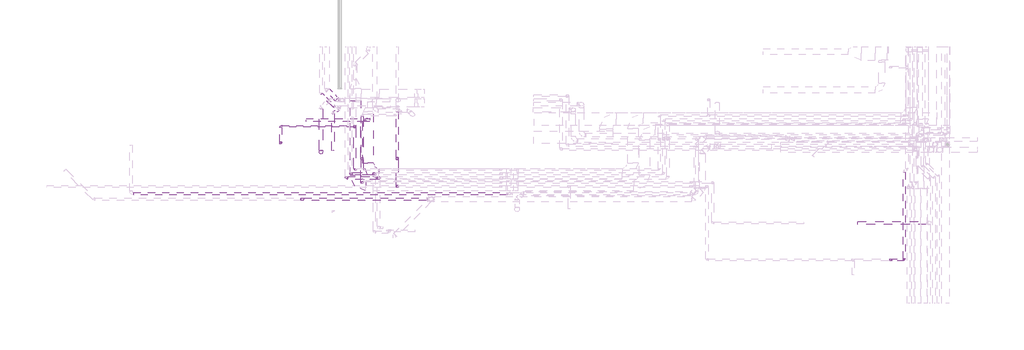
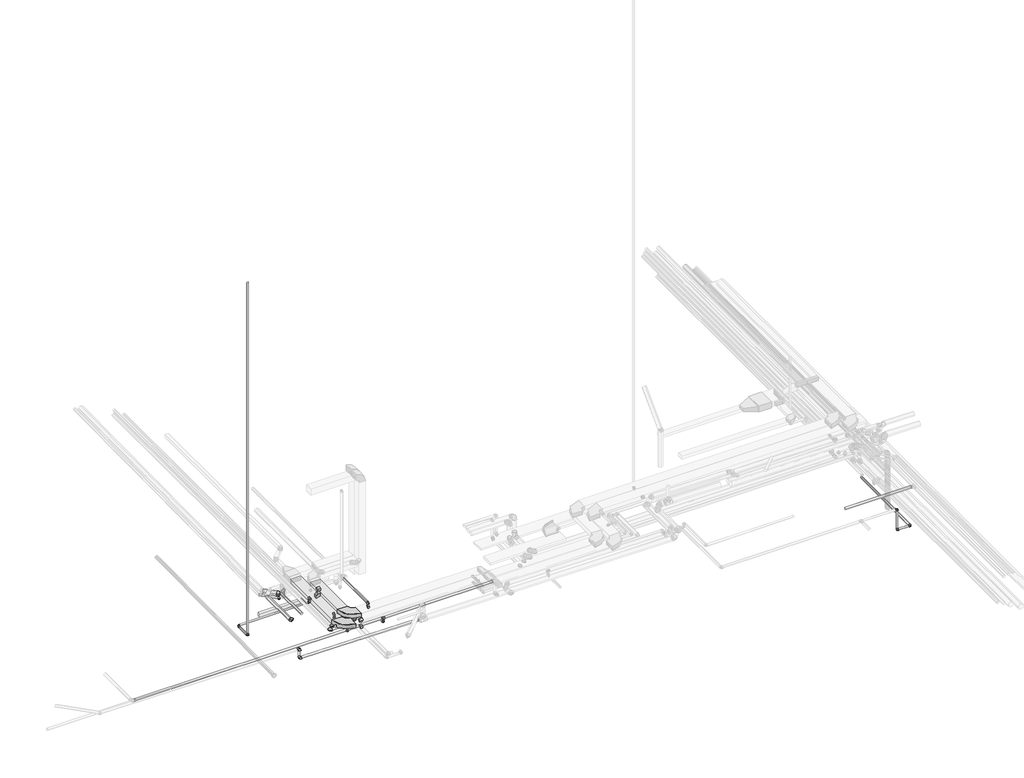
# One storey, part 2 of 12: 29 pipe segments, 27 pipe fittings, 5 duct segments, 4 duct fittings.
"""IFC4 building model written with IfcOpenShell, lengths in millimetres."""

from ifc_helpers import new_model, si_unit, point, frame, frame_2d, origin, place, context, project, spatial, polyline, circle_curve, trimmed, segment, composite_curve, outline, extrude, transform, mapped, element, save
from ifc_brep_helpers import plane_surface, cylinder_surface, advanced_brep
from components import ext_4b23f397, m_codo_rectangular_radio_apt_1_w_8ec2a39b, m_codo_rectangular_radio_apt_1_w_e8c11995, pipe_fitting_8e92d537, pipe_fitting_daf7410a, pipe_fitting_ae9a0cda, pipe_fitting_0b7fd5a4, pipe_fitting_fa3f9604, pipe_fitting_87aeffad, pipe_fitting_2d09eb79, pipe_fitting_e0fa64fe, pipe_fitting_97cb9ba5, pipe_fitting_7933befb, pipe_fitting_050630e5, pipe_fitting_18c4f502, pipe_fitting_23e94af2, pipe_fitting_9c2f0113, pipe_fitting_75141885, pipe_fitting_8c00643b

model = new_model("IFC4")

# Units and contexts
model_context = context("Model", 3, world=origin())
ifc_project = project(units=[si_unit("LENGTHUNIT", "METRE", prefix="MILLI")], contexts=[model_context])

# Site, building, storey
site = spatial("IfcSite", under=ifc_project)
building = spatial("IfcBuilding", under=site)
storey = spatial("IfcBuildingStorey", under=building, Name="Nivell -01 PS1_PK", Elevation=1850.0)

# Duct fittings
placement = place(None, origin())
ext_shape = ext_4b23f397(model_context)
element("IfcDuctFitting", 1, ObjectType="M_Toma de derivación rectangular : EXT", at=placement, inside=storey, context=model_context, shape_type="MappedRepresentation", body=[
    mapped(ext_shape, transform((6225.7133499, -12221.0454936, 6050.0), x_axis=(0.0, 0.0, -1.0), y_axis=(0.0, -1.0, 0.0), z_axis=(-1.0, 0.0, 0.0))),
])
m_codo_rectangular_radio_apt_1_w_shape = m_codo_rectangular_radio_apt_1_w_8ec2a39b(model_context)
element("IfcDuctFitting", 2, ObjectType="M_Codo rectangular - Radio : APT_1 W", at=placement, inside=storey, context=model_context, shape_type="MappedRepresentation", body=[
    mapped(m_codo_rectangular_radio_apt_1_w_shape, transform((5630.3976532, -15322.0340662, 6150.0), x_axis=(0.0, -1.0, 0.0), y_axis=(1.0, 0.0, 0.0), z_axis=(0.0, 0.0, 1.0))),
])
element("IfcDuctFitting", 3, ObjectType="M_Codo rectangular - Radio : EXT_1 W", at=placement, inside=storey, context=model_context, shape_type="MappedRepresentation", body=[
    mapped(m_codo_rectangular_radio_apt_1_w_shape, transform((6225.7133499, -14757.626822, 6150.0), x_axis=(0.0, -1.0, 0.0), y_axis=(1.0, 0.0, 0.0), z_axis=(0.0, 0.0, 1.0))),
])
m_codo_rectangular_radio_apt_1_w_2_shape = m_codo_rectangular_radio_apt_1_w_e8c11995(model_context)
element("IfcDuctFitting", 4, ObjectType="M_Codo rectangular - Radio : EXT_1 W", at=placement, inside=storey, context=model_context, shape_type="MappedRepresentation", body=[
    mapped(m_codo_rectangular_radio_apt_1_w_2_shape, transform((6225.7133499, -12221.0454936, 5675.0), x_axis=(1.0, 0.0, 0.0), y_axis=(0.0, 0.0, 1.0), z_axis=(0.0, -1.0, 0.0))),
])

# Duct segments
element("IfcDuctSegment", 5, ObjectType="APT_Fibra de vidre rígida", at=placement, inside=storey, context=model_context, shape_type="SweptSolid", body=[
    extrude(outline(polyline([(5880.3976532, -14822.0340662), (5380.3976532, -14822.0340662), (5380.3976532, -11316.7555763), (5880.3976532, -11316.7555763), (5880.3976532, -14822.0340662)])), frame((0.0, 0.0, 6050.0), z_axis=(0.0, 0.0, 1.0), x_axis=(1.0, 0.0, 0.0)), (0.0, 0.0, 1.0), 200.0),
])
element("IfcDuctSegment", 6, ObjectType="EXT_Fibra de vidre rígida", at=placement, inside=storey, context=model_context, shape_type="SweptSolid", body=[
    extrude(outline(polyline([(6475.7133499, -14257.626822), (5975.7133499, -14257.626822), (5975.7133499, -11941.7642447), (6475.7133499, -11941.7642447), (6475.7133499, -14257.626822)])), frame((0.0, 0.0, 6050.0), z_axis=(0.0, 0.0, 1.0), x_axis=(1.0, 0.0, 0.0)), (0.0, 0.0, 1.0), 200.0),
])
element("IfcDuctSegment", 7, ObjectType="EXT_Fibra de vidre rígida", at=placement, inside=storey, context=model_context, shape_type="SweptSolid", body=[
    extrude(outline(polyline([(6075.7133499, -12146.0454936), (6075.7133499, -12296.0454936), (3301.1206995, -12296.0454936), (3301.1206995, -12146.0454936), (6075.7133499, -12146.0454936)])), frame((0.0, 0.0, 5600.0), z_axis=(0.0, 0.0, 1.0), x_axis=(1.0, 0.0, 0.0)), (0.0, 0.0, 1.0), 150.0),
])
element("IfcDuctSegment", 8, ObjectType="EXT_Fibra de vidre rígida", at=placement, inside=storey, context=model_context, shape_type="SweptSolid", body=[
    extrude(outline(polyline([(6300.7133499, -12146.0454936), (6300.7133499, -12296.0454936), (6150.7133499, -12296.0454936), (6150.7133499, -12146.0454936), (6300.7133499, -12146.0454936)])), frame((0.0, 0.0, 5825.0), z_axis=(0.0, 0.0, 1.0), x_axis=(1.0, 0.0, 0.0)), (0.0, 0.0, 1.0), 123.4),
])
element("IfcDuctSegment", 9, ObjectType="EXT_Acer Galvanitzat - Rígid", at=placement, inside=storey, context=model_context, shape_type="SweptSolid", body=[
    extrude(outline(composite_curve([segment(trimmed(circle_curve(frame_2d((-15709.0880218, 6196.7)), 62.5), [point((-15646.5880218, 6196.7))], [point((-15709.0880218, 6134.2))], False, "CARTESIAN"), True, "CONTINUOUS"), segment(trimmed(circle_curve(frame_2d((-15709.0880218, 6196.7)), 62.5), [point((-15709.0880218, 6134.2))], [point((-15771.5880218, 6196.7))], False, "CARTESIAN"), True, "CONTINUOUS"), segment(trimmed(circle_curve(frame_2d((-15709.0880218, 6196.7)), 62.5), [point((-15771.5880218, 6196.7))], [point((-15709.0880218, 6259.2))], False, "CARTESIAN"), True, "CONTINUOUS"), segment(trimmed(circle_curve(frame_2d((-15709.0880218, 6196.7)), 62.5), [point((-15709.0880218, 6259.2))], [point((-15646.5880218, 6196.7))], False, "CARTESIAN"), True, "CONTINUOUS")], self_intersect=False)), frame((-4839.5580563, 0.0, 0.0), z_axis=(1.0, 0.0, 0.0), x_axis=(0.0, 1.0, 0.0)), (0.0, 0.0, 1.0), 17619.0),
])

# Pipe fittings
pipe_fitting_shape = pipe_fitting_8e92d537(model_context)
element("IfcPipeFitting", 10, ObjectType="M_Codo - Genérico : Estándar", at=placement, inside=storey, context=model_context, shape_type="MappedRepresentation", body=[
    mapped(pipe_fitting_shape, transform((3131.7905293, -15964.8234332, 6233.0224851), x_axis=(0.9999500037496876, 0.0, -0.009999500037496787), y_axis=(-0.009999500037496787, 0.0, -0.9999500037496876), z_axis=(0.0, 1.0, 0.0))),
])
element("IfcPipeFitting", 11, ObjectType="M_Codo - Genérico : Estándar", at=placement, inside=storey, context=model_context, shape_type="MappedRepresentation", body=[
    mapped(pipe_fitting_shape, transform((3131.7905293, -15964.8234332, 5750.2907869), x_axis=(0.0, 0.0, -1.0), y_axis=(1.0, 0.0, 0.0), z_axis=(0.0, -1.0, 0.0))),
])
pipe_fitting_2_shape = pipe_fitting_daf7410a(model_context)
element("IfcPipeFitting", 12, ObjectType="M_Codo - Genérico : Estándar", at=placement, inside=storey, context=model_context, shape_type="MappedRepresentation", body=[
    mapped(pipe_fitting_2_shape, transform((4008.5897125, -13760.66932, 6071.0451919), x_axis=(0.0, -0.999950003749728, 0.009999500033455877), y_axis=(0.0, 0.009999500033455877, 0.999950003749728), z_axis=(-1.0, 0.0, 0.0))),
])
pipe_fitting_3_shape = pipe_fitting_ae9a0cda(model_context)
element("IfcPipeFitting", 13, ObjectType="M_Codo - Genérico : Estándar", at=placement, inside=storey, context=model_context, shape_type="MappedRepresentation", body=[
    mapped(pipe_fitting_3_shape, transform((4781.060367, -11283.0348954, 5700.0373998), x_axis=(0.7070714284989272, -0.7070714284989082, -0.00999950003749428), y_axis=(0.707071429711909, 0.7071300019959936, -0.004141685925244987), z_axis=(0.009999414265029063, -0.004141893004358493, 0.9999414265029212))),
])
pipe_fitting_4_shape = pipe_fitting_0b7fd5a4(model_context)
element("IfcPipeFitting", 14, ObjectType="M_Codo - Genérico : Estándar", at=placement, inside=storey, context=model_context, shape_type="MappedRepresentation", body=[
    mapped(pipe_fitting_4_shape, transform((4635.4792422, -11598.5487689, 5702.4471973), x_axis=(0.7070714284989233, -0.707071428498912, -0.00999950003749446), y_axis=(0.7070714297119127, 0.7071300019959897, -0.004141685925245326), z_axis=(0.009999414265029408, -0.004141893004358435, 0.9999414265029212))),
])
pipe_fitting_5_shape = pipe_fitting_fa3f9604(model_context)
element("IfcPipeFitting", 15, ObjectType="M_Codo - Genérico : Estándar", at=placement, inside=storey, context=model_context, shape_type="MappedRepresentation", body=[
    mapped(pipe_fitting_5_shape, transform((6521.2662866, -14767.4914554, 5545.0), x_axis=(0.0, 0.0, -1.0), y_axis=(0.0, -1.0, 0.0), z_axis=(-1.0, 0.0, 0.0))),
])
pipe_fitting_6_shape = pipe_fitting_87aeffad(model_context)
element("IfcPipeFitting", 16, ObjectType="M_Codo - Genérico : Estándar", at=placement, inside=storey, context=model_context, shape_type="MappedRepresentation", body=[
    mapped(pipe_fitting_6_shape, transform((30889.6358511, -18834.3646266, 4449.2), x_axis=(-1.0, 0.0, 0.0), y_axis=(0.0, 0.0, 1.0), z_axis=(0.0, 1.0, 0.0))),
])
element("IfcPipeFitting", 17, ObjectType="M_Codo - Genérico : Estándar", at=placement, inside=storey, context=model_context, shape_type="MappedRepresentation", body=[
    mapped(pipe_fitting_6_shape, transform((30889.6358511, -18834.3646266, 5519.2), x_axis=(1.0, 0.0, 0.0), y_axis=(0.0, 0.0, -1.0), z_axis=(0.0, 1.0, 0.0))),
])
element("IfcPipeFitting", 18, ObjectType="M_Codo - Genérico : Estándar", at=placement, inside=storey, context=model_context, shape_type="MappedRepresentation", body=[
    mapped(pipe_fitting_6_shape, transform((2106.1232994, -13326.0643042, 5705.0), x_axis=(0.0, 0.0, -1.0), y_axis=(0.0, 1.0, 0.0), z_axis=(1.0, 0.0, 0.0))),
])
element("IfcPipeFitting", 19, ObjectType="M_Codo - Genérico : Estándar", at=placement, inside=storey, context=model_context, shape_type="MappedRepresentation", body=[
    mapped(pipe_fitting_6_shape, transform((5940.3309667, -14048.9748387, 5899.2), x_axis=(0.0, -1.0, 0.0), y_axis=(0.0, 0.0, -1.0), z_axis=(1.0, 0.0, 0.0))),
])
element("IfcPipeFitting", 20, ObjectType="M_Codo - Genérico : Estándar", at=placement, inside=storey, context=model_context, shape_type="MappedRepresentation", body=[
    mapped(pipe_fitting_6_shape, transform((5940.3309667, -14048.9748387, 5699.2), x_axis=(0.0, 0.0, -1.0), y_axis=(0.0, -1.0, 0.0), z_axis=(-1.0, 0.0, 0.0))),
])
element("IfcPipeFitting", 21, ObjectType="M_Codo - Genérico : Estándar", at=placement, inside=storey, context=model_context, shape_type="MappedRepresentation", body=[
    mapped(pipe_fitting_6_shape, transform((7606.3040659, -14048.9583766, 5899.2), x_axis=(0.0, -1.0, 0.0), y_axis=(0.0, 0.0, -1.0), z_axis=(1.0, 0.0, 0.0))),
])
element("IfcPipeFitting", 22, ObjectType="M_Codo - Genérico : Estándar", at=placement, inside=storey, context=model_context, shape_type="MappedRepresentation", body=[
    mapped(pipe_fitting_6_shape, transform((5940.3309667, -15184.3810887, 5699.2), x_axis=(0.0, -1.0, 0.0), y_axis=(0.0, 0.0, 1.0), z_axis=(-1.0, 0.0, 0.0))),
])
element("IfcPipeFitting", 23, ObjectType="M_Codo - Genérico : Estándar", at=placement, inside=storey, context=model_context, shape_type="MappedRepresentation", body=[
    mapped(pipe_fitting_6_shape, transform((5940.3309667, -15184.3810887, 5899.2), x_axis=(0.0, 0.0, 1.0), y_axis=(1.0, 0.0, 0.0), z_axis=(0.0, 1.0, 0.0))),
])
element("IfcPipeFitting", 24, ObjectType="M_Codo - Genérico : Estándar", at=placement, inside=storey, context=model_context, shape_type="MappedRepresentation", body=[
    mapped(pipe_fitting_6_shape, transform((7606.3040659, -14048.9583766, 5699.2), x_axis=(0.0, 0.0, -1.0), y_axis=(0.0, -1.0, 0.0), z_axis=(-1.0, 0.0, 0.0))),
])
element("IfcPipeFitting", 25, ObjectType="M_Codo - Genérico : Estándar", at=placement, inside=storey, context=model_context, shape_type="MappedRepresentation", body=[
    mapped(pipe_fitting_6_shape, transform((7606.3040659, -15364.3646266, 5699.2), x_axis=(0.0, 0.0, -1.0), y_axis=(0.0, 1.0, 0.0), z_axis=(1.0, 0.0, 0.0))),
])
element("IfcPipeFitting", 26, ObjectType="M_Codo - Genérico : Estándar", at=placement, inside=storey, context=model_context, shape_type="MappedRepresentation", body=[
    mapped(pipe_fitting_6_shape, transform((31531.7253804, -18834.3646266, 4449.2), x_axis=(1.0, 0.0, 0.0), y_axis=(0.0, 1.0, 0.0), z_axis=(0.0, 0.0, 1.0))),
])
pipe_fitting_7_shape = pipe_fitting_2d09eb79(model_context)
element("IfcPipeFitting", 27, ObjectType="M_Te - Genérica : Estándar", at=placement, inside=storey, context=model_context, shape_type="MappedRepresentation", body=[
    mapped(pipe_fitting_7_shape, transform((7606.3040659, -15364.3646266, 5899.2), x_axis=(1.0, 0.0, 0.0), y_axis=(0.0, 0.0, 1.0), z_axis=(0.0, -1.0, 0.0))),
])
pipe_fitting_8_shape = pipe_fitting_e0fa64fe(model_context)
element("IfcPipeFitting", 28, ObjectType="M_Codo - Genérico : Estándar", at=placement, inside=storey, context=model_context, shape_type="MappedRepresentation", body=[
    mapped(pipe_fitting_8_shape, transform((6721.360533, -14967.4914554, 5537.5), x_axis=(0.0, 0.0, -1.0), y_axis=(0.0, -1.0, 0.0), z_axis=(-1.0, 0.0, 0.0))),
])
pipe_fitting_9_shape = pipe_fitting_97cb9ba5(model_context)
element("IfcPipeFitting", 29, ObjectType="M_Te - Genérica : Estándar", at=placement, inside=storey, context=model_context, shape_type="MappedRepresentation", body=[
    mapped(pipe_fitting_9_shape, transform((6721.360533, -14967.4914554, 5887.5), x_axis=(-1.0, 0.0, 0.0), y_axis=(0.0, 0.0, 1.0), z_axis=(0.0, 1.0, 0.0))),
])
pipe_fitting_10_shape = pipe_fitting_7933befb(model_context)
element("IfcPipeFitting", 30, ObjectType="M_Te - Genérica : Estándar", at=placement, inside=storey, context=model_context, shape_type="MappedRepresentation", body=[
    mapped(pipe_fitting_10_shape, transform((6521.2662866, -14767.4914554, 5895.0), x_axis=(1.0, 0.0, 0.0), y_axis=(0.0, 0.0, 1.0), z_axis=(0.0, -1.0, 0.0))),
])
pipe_fitting_11_shape = pipe_fitting_050630e5(model_context)
element("IfcPipeFitting", 31, ObjectType="M_Codo - Genérico : Estándar", at=placement, inside=storey, context=model_context, shape_type="MappedRepresentation", body=[
    mapped(pipe_fitting_11_shape, transform((2106.1232994, -12522.4121838, 5705.0), x_axis=(-0.9999999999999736, 2.2989025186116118e-07, 0.0), y_axis=(-2.2989025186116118e-07, -0.9999999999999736, 0.0), z_axis=(0.0, 0.0, 1.0))),
])
pipe_fitting_12_shape = pipe_fitting_18c4f502(model_context)
element("IfcPipeFitting", 32, ObjectType="M_Codo - Genérico : Estándar", at=placement, inside=storey, context=model_context, shape_type="MappedRepresentation", body=[
    mapped(pipe_fitting_12_shape, transform((5609.756642, -12522.4129893, 5705.0), x_axis=(0.9999999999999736, -2.2989025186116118e-07, 0.0), y_axis=(0.0, -1.5930956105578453e-08, 0.9999999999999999), z_axis=(-2.2989025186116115e-07, -0.9999999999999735, -1.5930956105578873e-08))),
])
pipe_fitting_13_shape = pipe_fitting_23e94af2(model_context)
element("IfcPipeFitting", 33, ObjectType="M_Codo - Genérico : Estándar", at=placement, inside=storey, context=model_context, shape_type="MappedRepresentation", body=[
    mapped(pipe_fitting_13_shape, transform((5609.6747648, -14567.4914554, 5905.0), x_axis=(-3.998668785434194e-05, -0.9999999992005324, 0.0), y_axis=(0.9999999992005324, -3.998668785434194e-05, 0.0), z_axis=(0.0, 0.0, 1.0))),
])
pipe_fitting_14_shape = pipe_fitting_9c2f0113(model_context)
element("IfcPipeFitting", 34, ObjectType="M_Codo - Genérico : Estándar", at=placement, inside=storey, context=model_context, shape_type="MappedRepresentation", body=[
    mapped(pipe_fitting_14_shape, transform((5409.666343, -14767.4914554, 5895.0), x_axis=(-4.1534684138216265e-05, -0.9999999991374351, 0.0), y_axis=(0.9999999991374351, -4.1534684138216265e-05, 0.0), z_axis=(0.0, 0.0, 1.0))),
])
pipe_fitting_15_shape = pipe_fitting_75141885(model_context)
element("IfcPipeFitting", 35, ObjectType="M_Codo - Genérico : Estándar", at=placement, inside=storey, context=model_context, shape_type="MappedRepresentation", body=[
    mapped(pipe_fitting_15_shape, transform((5209.6580019, -14967.4914554, 5887.5), x_axis=(-4.153409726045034e-05, -0.9999999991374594, 0.0), y_axis=(0.9999999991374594, -4.153409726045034e-05, 0.0), z_axis=(0.0, 0.0, 1.0))),
])
pipe_fitting_16_shape = pipe_fitting_8c00643b(model_context)
element("IfcPipeFitting", 36, ObjectType="M_Te - Genérica : Estándar", at=placement, inside=storey, context=model_context, shape_type="MappedRepresentation", body=[
    mapped(pipe_fitting_16_shape, transform((5609.7565407, -12522.4129925, 5905.0), x_axis=(3.99866878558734e-05, 0.9999999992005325, 0.0), y_axis=(-5.067372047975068e-07, 2.0262742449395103e-11, 0.9999999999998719), z_axis=(0.9999999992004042, -3.998668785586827e-05, 5.067372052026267e-07))),
])

# Pipe segments
element("IfcPipeSegment", 37, ObjectType="AN_CI", at=placement, inside=storey, context=model_context, shape_type="SweptSolid", body=[
    extrude(outline(composite_curve([segment(trimmed(circle_curve(frame_2d((5699.2, 7606.3040659)), 50.8), [point((5699.2, 7555.5040659))], [point((5648.4, 7606.3040659))], False, "CARTESIAN"), True, "CONTINUOUS"), segment(trimmed(circle_curve(frame_2d((5699.2, 7606.3040659)), 50.8), [point((5648.4, 7606.3040659))], [point((5699.2, 7657.1040659))], False, "CARTESIAN"), True, "CONTINUOUS"), segment(trimmed(circle_curve(frame_2d((5699.2, 7606.3040659)), 50.8), [point((5699.2, 7657.1040659))], [point((5750.0, 7606.3040659))], False, "CARTESIAN"), True, "CONTINUOUS"), segment(trimmed(circle_curve(frame_2d((5699.2, 7606.3040659)), 50.8), [point((5750.0, 7606.3040659))], [point((5699.2, 7555.5040659))], False, "CARTESIAN"), True, "CONTINUOUS")], self_intersect=False)), frame((0.0, -15311.9771266, 0.0), z_axis=(0.0, 1.0, 0.0), x_axis=(0.0, 0.0, 1.0)), (0.0, 0.0, 1.0), 1210.63125),
])
element("IfcPipeSegment", 38, ObjectType="AN_CI", at=placement, inside=storey, context=model_context, shape_type="SweptSolid", body=[
    extrude(outline(composite_curve([segment(trimmed(circle_curve(frame_2d((-18834.3646266, 4449.2)), 50.8), [point((-18885.1646266, 4449.2))], [point((-18834.3646266, 4500.0))], False, "CARTESIAN"), True, "CONTINUOUS"), segment(trimmed(circle_curve(frame_2d((-18834.3646266, 4449.2)), 50.8), [point((-18834.3646266, 4500.0))], [point((-18783.5646266, 4449.2))], False, "CARTESIAN"), True, "CONTINUOUS"), segment(trimmed(circle_curve(frame_2d((-18834.3646266, 4449.2)), 50.8), [point((-18783.5646266, 4449.2))], [point((-18834.3646266, 4398.4))], False, "CARTESIAN"), True, "CONTINUOUS"), segment(trimmed(circle_curve(frame_2d((-18834.3646266, 4449.2)), 50.8), [point((-18834.3646266, 4398.4))], [point((-18885.1646266, 4449.2))], False, "CARTESIAN"), True, "CONTINUOUS")], self_intersect=False)), frame((30942.0233511, 0.0, 0.0), z_axis=(1.0, 0.0, 0.0), x_axis=(0.0, 1.0, 0.0)), (0.0, 0.0, 1.0), 537.3145294),
])
element("IfcPipeSegment", 39, ObjectType="AN_CI", at=placement, inside=storey, context=model_context, shape_type="SweptSolid", body=[
    extrude(outline(composite_curve([segment(trimmed(circle_curve(frame_2d((30889.6358511, -18834.3646266)), 50.8), [point((30838.8358511, -18834.3646266))], [point((30889.6358511, -18783.5646266))], False, "CARTESIAN"), True, "CONTINUOUS"), segment(trimmed(circle_curve(frame_2d((30889.6358511, -18834.3646266)), 50.8), [point((30889.6358511, -18783.5646266))], [point((30940.4358511, -18834.3646266))], False, "CARTESIAN"), True, "CONTINUOUS"), segment(trimmed(circle_curve(frame_2d((30889.6358511, -18834.3646266)), 50.8), [point((30940.4358511, -18834.3646266))], [point((30889.6358511, -18885.1646266))], False, "CARTESIAN"), True, "CONTINUOUS"), segment(trimmed(circle_curve(frame_2d((30889.6358511, -18834.3646266)), 50.8), [point((30889.6358511, -18885.1646266))], [point((30838.8358511, -18834.3646266))], False, "CARTESIAN"), True, "CONTINUOUS")], self_intersect=False)), frame((0.0, 0.0, 4501.5875), z_axis=(0.0, 0.0, 1.0), x_axis=(1.0, 0.0, 0.0)), (0.0, 0.0, 1.0), 965.225),
])
element("IfcPipeSegment", 40, ObjectType="AN_CI", at=placement, inside=storey, context=model_context, shape_type="SweptSolid", body=[
    extrude(outline(composite_curve([segment(trimmed(circle_curve(frame_2d((5899.2, 5940.3309667)), 50.8), [point((5899.2, 5991.1309667))], [point((5950.0, 5940.3309667))], False, "CARTESIAN"), True, "CONTINUOUS"), segment(trimmed(circle_curve(frame_2d((5899.2, 5940.3309667)), 50.8), [point((5950.0, 5940.3309667))], [point((5899.2, 5889.5309667))], False, "CARTESIAN"), True, "CONTINUOUS"), segment(trimmed(circle_curve(frame_2d((5899.2, 5940.3309667)), 50.8), [point((5899.2, 5889.5309667))], [point((5848.4, 5940.3309667))], False, "CARTESIAN"), True, "CONTINUOUS"), segment(trimmed(circle_curve(frame_2d((5899.2, 5940.3309667)), 50.8), [point((5848.4, 5940.3309667))], [point((5899.2, 5991.1309667))], False, "CARTESIAN"), True, "CONTINUOUS")], self_intersect=False)), frame((0.0, -13996.5873387, 0.0), z_axis=(0.0, 1.0, 0.0), x_axis=(0.0, 0.0, 1.0)), (0.0, 0.0, 1.0), 1948.8683735),
])
element("IfcPipeSegment", 41, ObjectType="PP_FN", at=placement, inside=storey, context=model_context, shape_type="SweptSolid", body=[
    extrude(outline(composite_curve([segment(trimmed(circle_curve(frame_2d((-14767.4914554, 5895.0)), 55.0), [point((-14712.4914554, 5895.0))], [point((-14767.4914554, 5840.0))], False, "CARTESIAN"), True, "CONTINUOUS"), segment(trimmed(circle_curve(frame_2d((-14767.4914554, 5895.0)), 55.0), [point((-14767.4914554, 5840.0))], [point((-14822.4914554, 5895.0))], False, "CARTESIAN"), True, "CONTINUOUS"), segment(trimmed(circle_curve(frame_2d((-14767.4914554, 5895.0)), 55.0), [point((-14822.4914554, 5895.0))], [point((-14767.4914554, 5950.0))], False, "CARTESIAN"), True, "CONTINUOUS"), segment(trimmed(circle_curve(frame_2d((-14767.4914554, 5895.0)), 55.0), [point((-14767.4914554, 5950.0))], [point((-14712.4914554, 5895.0))], False, "CARTESIAN"), True, "CONTINUOUS")], self_intersect=False)), frame((5472.6064571, 0.0, 0.0), z_axis=(1.0, 0.0, 0.0), x_axis=(0.0, 1.0, 0.0)), (0.0, 0.0, 1.0), 979.3723295),
])
element("IfcPipeSegment", 42, ObjectType="PP_FN", at=placement, inside=storey, context=model_context, shape_type="SweptSolid", body=[
    extrude(outline(composite_curve([segment(trimmed(circle_curve(frame_2d((0.0, 45.0)), 45.0), [point((-45.0, 45.0))], [point((0.0, 90.0))], False, "CARTESIAN"), True, "CONTINUOUS"), segment(trimmed(circle_curve(frame_2d((0.0, 45.0)), 45.0), [point((0.0, 90.0))], [point((45.0, 45.0))], False, "CARTESIAN"), True, "CONTINUOUS"), segment(trimmed(circle_curve(frame_2d((0.0, 45.0)), 45.0), [point((45.0, 45.0))], [point((0.0, 0.0))], False, "CARTESIAN"), True, "CONTINUOUS"), segment(trimmed(circle_curve(frame_2d((0.0, 45.0)), 45.0), [point((0.0, 0.0))], [point((-45.0, 45.0))], False, "CARTESIAN"), True, "CONTINUOUS")], self_intersect=False)), frame((5557.369142, -12522.4129773, 5660.0), z_axis=(-0.9999999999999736, 2.2989025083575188e-07, 0.0), x_axis=(-2.2989025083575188e-07, -0.9999999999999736, 0.0)), (0.0, 0.0, 1.0), 3398.8583306),
])
element("IfcPipeSegment", 43, ObjectType="PP_FN", at=placement, inside=storey, context=model_context, shape_type="AdvancedBrep", body=[
    advanced_brep(
    [(2151.123299, -13326.0643042, 24054.36875), (2106.123299, -13281.0643042, 24054.36875), (2061.123299, -13326.0643042, 24054.36875), (2106.123299, -13371.0643042, 24054.36875), (2151.1232994, -13326.0643042, 5757.3875), (2106.1232994, -13371.0643042, 5757.3875), (2061.1232994, -13326.0643042, 5757.3875), (2106.1232994, -13281.0643042, 5757.3875)],
    [
        (0, 1, circle_curve(frame((2106.123299, -13326.0643042, 24054.36875), z_axis=(0.0, 0.0, 1.0), x_axis=(1.0, 0.0, 0.0)), 45.0)),
        (1, 2, circle_curve(frame((2106.123299, -13326.0643042, 24054.36875), z_axis=(0.0, 0.0, 1.0), x_axis=(1.0, 0.0, 0.0)), 45.0)),
        (2, 3, circle_curve(frame((2106.123299, -13326.0643042, 24054.36875), z_axis=(0.0, 0.0, 1.0), x_axis=(1.0, 0.0, 0.0)), 45.0)),
        (3, 0, circle_curve(frame((2106.123299, -13326.0643042, 24054.36875), z_axis=(0.0, 0.0, 1.0), x_axis=(1.0, 0.0, 0.0)), 45.0)),
        (4, 5, circle_curve(frame((2106.123299, -13326.0643042, 5757.3875), z_axis=(0.0, 0.0, -1.0), x_axis=(1.0, 0.0, 0.0)), 45.0000004)),
        (5, 6, circle_curve(frame((2106.123299, -13326.0643042, 5757.3875), z_axis=(0.0, 0.0, -1.0), x_axis=(1.0, 0.0, 0.0)), 45.0)),
        (6, 7, circle_curve(frame((2106.123299, -13326.0643042, 5757.3875), z_axis=(0.0, 0.0, -1.0), x_axis=(1.0, 0.0, 0.0)), 44.9999996)),
        (7, 4, circle_curve(frame((2106.123299, -13326.0643042, 5757.3875), z_axis=(0.0, 0.0, -1.0), x_axis=(1.0, 0.0, 0.0)), 45.0)),
        (0, 4),
        (7, 1),
        (6, 2),
        (5, 3),
    ],
    [
        plane_surface(frame((2106.123299, -13371.0643042, 24054.36875), z_axis=(0.0, 0.0, 1.0), x_axis=(-1.0, 0.0, 0.0))),
        plane_surface(frame((2106.1232994, -13371.0643042, 5757.3875), z_axis=(0.0, 0.0, -1.0), x_axis=(-1.0, 0.0, 0.0))),
        cylinder_surface(frame((2106.123299, -13326.0643042, 24054.36875), z_axis=(0.0, 0.0, 1.0), x_axis=(1.0, 0.0, 0.0)), 45.0),
    ],
    [
        (0, [[1, 2, 3, 4]]),
        (1, [[5, 6, 7, 8]]),
        (2, [[-1, 9, -8, 10]]),
        (2, [[-2, -10, -7, 11]]),
        (2, [[-3, -11, -6, 12]]),
        (2, [[-4, -12, -5, -9]]),
    ],
),
])
element("IfcPipeSegment", 44, ObjectType="PP_FN", at=placement, inside=storey, context=model_context, shape_type="SweptSolid", body=[
    extrude(outline(composite_curve([segment(trimmed(circle_curve(frame_2d((0.0, 45.0)), 45.0), [point((-45.0, 45.0))], [point((0.0, 90.0))], False, "CARTESIAN"), True, "CONTINUOUS"), segment(trimmed(circle_curve(frame_2d((0.0, 45.0)), 45.0), [point((0.0, 90.0))], [point((45.0, 45.0))], False, "CARTESIAN"), True, "CONTINUOUS"), segment(trimmed(circle_curve(frame_2d((0.0, 45.0)), 45.0), [point((45.0, 45.0))], [point((0.0, 0.0))], False, "CARTESIAN"), True, "CONTINUOUS"), segment(trimmed(circle_curve(frame_2d((0.0, 45.0)), 45.0), [point((0.0, 0.0))], [point((-45.0, 45.0))], False, "CARTESIAN"), True, "CONTINUOUS")], self_intersect=False)), frame((5609.7566155, -12567.4129901, 5757.3875258), z_axis=(-5.067378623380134e-07, -1.5930816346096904e-08, 0.9999999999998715), x_axis=(0.9999999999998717, 0.0, 5.067378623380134e-07)), (0.0, 0.0, 1.0), 88.8749735),
])
element("IfcPipeSegment", 45, ObjectType="PP_FN", at=placement, inside=storey, context=model_context, shape_type="SweptSolid", body=[
    extrude(outline(composite_curve([segment(trimmed(circle_curve(frame_2d((0.0, 45.0)), 45.0), [point((0.0, 90.0))], [point((45.0, 45.0))], False, "CARTESIAN"), True, "CONTINUOUS"), segment(trimmed(circle_curve(frame_2d((0.0, 45.0)), 45.0), [point((45.0, 45.0))], [point((0.0, 0.0))], False, "CARTESIAN"), True, "CONTINUOUS"), segment(trimmed(circle_curve(frame_2d((0.0, 45.0)), 45.0), [point((0.0, 0.0))], [point((-45.0, 45.0))], False, "CARTESIAN"), True, "CONTINUOUS"), segment(trimmed(circle_curve(frame_2d((0.0, 45.0)), 45.0), [point((-45.0, 45.0))], [point((0.0, 90.0))], False, "CARTESIAN"), True, "CONTINUOUS")], self_intersect=False)), frame((5564.6768597, -14515.1000612, 5905.0), z_axis=(3.9986687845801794e-05, 0.9999999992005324, 0.0), x_axis=(0.0, 0.0, 1.0)), (0.0, 0.0, 1.0), 1933.9513698),
])
element("IfcPipeSegment", 46, ObjectType="PP_FN", at=placement, inside=storey, context=model_context, shape_type="SweptSolid", body=[
    extrude(outline(composite_curve([segment(trimmed(circle_curve(frame_2d((-17090.6428159, 5029.9002921)), 62.5), [point((-17028.1428159, 5029.9002921))], [point((-17090.6428159, 4967.4002921))], False, "CARTESIAN"), True, "CONTINUOUS"), segment(trimmed(circle_curve(frame_2d((-17090.6428159, 5029.9002921)), 62.5), [point((-17090.6428159, 4967.4002921))], [point((-17153.1428159, 5029.9002921))], False, "CARTESIAN"), True, "CONTINUOUS"), segment(trimmed(circle_curve(frame_2d((-17090.6428159, 5029.9002921)), 62.5), [point((-17153.1428159, 5029.9002921))], [point((-17090.6428159, 5092.4002921))], False, "CARTESIAN"), True, "CONTINUOUS"), segment(trimmed(circle_curve(frame_2d((-17090.6428159, 5029.9002921)), 62.5), [point((-17090.6428159, 5092.4002921))], [point((-17028.1428159, 5029.9002921))], False, "CARTESIAN"), True, "CONTINUOUS")], self_intersect=False)), frame((29342.5088554, 0.0, 0.0), z_axis=(1.0, 0.0, 0.0), x_axis=(0.0, 1.0, 0.0)), (0.0, 0.0, 1.0), 3254.9694481),
])
element("IfcPipeSegment", 47, ObjectType="PP_FN", at=placement, inside=storey, context=model_context, shape_type="SweptSolid", body=[
    extrude(outline(composite_curve([segment(trimmed(circle_curve(frame_2d((5705.0, 2106.1232994)), 45.0), [point((5705.0, 2061.1232994))], [point((5660.0, 2106.1232994))], False, "CARTESIAN"), True, "CONTINUOUS"), segment(trimmed(circle_curve(frame_2d((5705.0, 2106.1232994)), 45.0), [point((5660.0, 2106.1232994))], [point((5705.0, 2151.1232994))], False, "CARTESIAN"), True, "CONTINUOUS"), segment(trimmed(circle_curve(frame_2d((5705.0, 2106.1232994)), 45.0), [point((5705.0, 2151.1232994))], [point((5750.0, 2106.1232994))], False, "CARTESIAN"), True, "CONTINUOUS"), segment(trimmed(circle_curve(frame_2d((5705.0, 2106.1232994)), 45.0), [point((5750.0, 2106.1232994))], [point((5705.0, 2061.1232994))], False, "CARTESIAN"), True, "CONTINUOUS")], self_intersect=False)), frame((0.0, -13273.6768042, 0.0), z_axis=(0.0, 1.0, 0.0), x_axis=(0.0, 0.0, 1.0)), (0.0, 0.0, 1.0), 698.8771083),
])
element("IfcPipeSegment", 48, ObjectType="PVC_Baixant", at=placement, inside=storey, context=model_context, shape_type="SweptSolid", body=[
    extrude(outline(composite_curve([segment(trimmed(circle_curve(frame_2d((0.0, -100.0)), 100.0), [point((-99.9950008, -100.9999))], [point((-0.9999, -0.0049991))], False, "CARTESIAN"), True, "CONTINUOUS"), segment(trimmed(circle_curve(frame_2d((0.0, -100.0)), 100.0), [point((-0.9999, -0.0049991))], [point((99.9950009, -99.0001))], False, "CARTESIAN"), True, "CONTINUOUS"), segment(trimmed(circle_curve(frame_2d((0.0, -100.0)), 100.0), [point((99.9950009, -99.0001))], [point((0.9999001, -199.9950008))], False, "CARTESIAN"), True, "CONTINUOUS"), segment(trimmed(circle_curve(frame_2d((0.0, -100.0)), 100.0), [point((0.9999001, -199.9950008))], [point((-99.9950008, -100.9999))], False, "CARTESIAN"), True, "CONTINUOUS")], self_intersect=False)), frame((4748.9810592, -11249.5415155, 5600.5010683), z_axis=(-0.7070714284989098, 0.7070714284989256, 0.009999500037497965), x_axis=(0.7071421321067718, 0.7070007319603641, 0.009998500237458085)), (0.0, 0.0, 1.0), 607.5964489),
])
element("IfcPipeSegment", 49, ObjectType="PVC_Baixant", at=placement, inside=storey, context=model_context, shape_type="SweptSolid", body=[
    extrude(outline(composite_curve([segment(trimmed(circle_curve(frame_2d((0.0, -55.0)), 55.0), [point((-54.9972505, -55.549945))], [point((-0.549945, -0.0027495))], False, "CARTESIAN"), True, "CONTINUOUS"), segment(trimmed(circle_curve(frame_2d((0.0, -55.0)), 55.0), [point((-0.549945, -0.0027495))], [point((54.9972505, -54.450055))], False, "CARTESIAN"), True, "CONTINUOUS"), segment(trimmed(circle_curve(frame_2d((0.0, -55.0)), 55.0), [point((54.9972505, -54.450055))], [point((0.549945, -109.9972505))], False, "CARTESIAN"), True, "CONTINUOUS"), segment(trimmed(circle_curve(frame_2d((0.0, -55.0)), 55.0), [point((0.549945, -109.9972505))], [point((-54.9972505, -55.549945))], False, "CARTESIAN"), True, "CONTINUOUS")], self_intersect=False)), frame((4617.0472766, -11579.3390636, 5647.7133638), z_axis=(-0.7070714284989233, 0.7070714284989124, 0.009999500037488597), x_axis=(0.7071421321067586, 0.7070007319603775, 0.009998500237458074)), (0.0, 0.0, 1.0), 831.913376),
])
element("IfcPipeSegment", 50, ObjectType="PVC_Baixant", at=placement, inside=storey, context=model_context, shape_type="SweptSolid", body=[
    extrude(outline(composite_curve([segment(trimmed(circle_curve(frame_2d((0.0, 62.5)), 62.5), [point((0.0, 125.0))], [point((62.5, 62.5))], False, "CARTESIAN"), True, "CONTINUOUS"), segment(trimmed(circle_curve(frame_2d((0.0, 62.5)), 62.5), [point((62.5, 62.5))], [point((0.0, 0.0))], False, "CARTESIAN"), True, "CONTINUOUS"), segment(trimmed(circle_curve(frame_2d((0.0, 62.5)), 62.5), [point((0.0, 0.0))], [point((-62.5000001, 62.5))], False, "CARTESIAN"), True, "CONTINUOUS"), segment(trimmed(circle_curve(frame_2d((0.0, 62.5)), 62.5), [point((-62.5000001, 62.5))], [point((0.0, 125.0))], False, "CARTESIAN"), True, "CONTINUOUS")], self_intersect=False)), frame((8994.4219825, -16027.3234332, 5691.6644724), z_axis=(-0.9999500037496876, 0.0, 0.009999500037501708), x_axis=(0.009999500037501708, 0.0, 0.9999500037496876)), (0.0, 0.0, 1.0), 5792.1978807),
])
element("IfcPipeSegment", 51, ObjectType="PVC_Baixant", at=placement, inside=storey, context=model_context, shape_type="SweptSolid", body=[
    extrude(outline(composite_curve([segment(trimmed(circle_curve(frame_2d((0.0, -55.0)), 55.0), [point((55.0, -55.0))], [point((0.0, -110.0))], False, "CARTESIAN"), True, "CONTINUOUS"), segment(trimmed(circle_curve(frame_2d((0.0, -55.0)), 55.0), [point((0.0, -110.0))], [point((-55.0, -55.0))], False, "CARTESIAN"), True, "CONTINUOUS"), segment(trimmed(circle_curve(frame_2d((0.0, -55.0)), 55.0), [point((-55.0, -55.0))], [point((0.0, 0.0))], False, "CARTESIAN"), True, "CONTINUOUS"), segment(trimmed(circle_curve(frame_2d((0.0, -55.0)), 55.0), [point((0.0, 0.0))], [point((55.0, -55.0))], False, "CARTESIAN"), True, "CONTINUOUS")], self_intersect=False)), frame((4572.3218791, -11921.5622737, 6205.3662623), z_axis=(0.0, -0.9999500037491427, 0.009999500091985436), x_axis=(1.0, 0.0, 0.0)), (0.0, 0.0, 1.0), 1748.6512435),
])
element("IfcPipeSegment", 52, ObjectType="PVC_Baixant", at=placement, inside=storey, context=model_context, shape_type="SweptSolid", body=[
    extrude(outline(composite_curve([segment(trimmed(circle_curve(frame_2d((0.0, -55.0)), 55.0), [point((-54.9859733, -53.7579323))], [point((1.2420678, -0.0140266))], False, "CARTESIAN"), True, "CONTINUOUS"), segment(trimmed(circle_curve(frame_2d((0.0, -55.0)), 55.0), [point((1.2420678, -0.0140266))], [point((54.9859734, -56.2420677))], False, "CARTESIAN"), True, "CONTINUOUS"), segment(trimmed(circle_curve(frame_2d((0.0, -55.0)), 55.0), [point((54.9859734, -56.2420677))], [point((-1.2420676, -109.9859734))], False, "CARTESIAN"), True, "CONTINUOUS"), segment(trimmed(circle_curve(frame_2d((0.0, -55.0)), 55.0), [point((-1.2420676, -109.9859734))], [point((-54.9859733, -53.7579323))], False, "CARTESIAN"), True, "CONTINUOUS")], self_intersect=False)), frame((4604.5196565, -11865.7617294, 6095.473769), z_axis=(0.8724934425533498, 0.48846214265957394, 0.012646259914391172), x_axis=(0.4886258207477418, -0.8722011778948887, -0.022581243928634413)), (0.0, 0.0, 1.0), 259.9327788),
])
element("IfcPipeSegment", 53, ObjectType="PVC_Baixant", at=placement, inside=storey, context=model_context, shape_type="SweptSolid", body=[
    extrude(outline(composite_curve([segment(trimmed(circle_curve(frame_2d((4863.5008299, -11598.5251165)), 55.0), [point((4808.5008299, -11598.5251165))], [point((4863.5008299, -11543.5251165))], False, "CARTESIAN"), True, "CONTINUOUS"), segment(trimmed(circle_curve(frame_2d((4863.5008299, -11598.5251165)), 55.0), [point((4863.5008299, -11543.5251165))], [point((4918.5008299, -11598.5251165))], False, "CARTESIAN"), True, "CONTINUOUS"), segment(trimmed(circle_curve(frame_2d((4863.5008299, -11598.5251165)), 55.0), [point((4918.5008299, -11598.5251165))], [point((4863.5008299, -11653.5251165))], False, "CARTESIAN"), True, "CONTINUOUS"), segment(trimmed(circle_curve(frame_2d((4863.5008299, -11598.5251165)), 55.0), [point((4863.5008299, -11653.5251165))], [point((4808.5008299, -11598.5251165))], False, "CARTESIAN"), True, "CONTINUOUS")], self_intersect=False)), frame((0.0, 0.0, 5767.0524259), z_axis=(0.0, 0.0, 1.0), x_axis=(1.0, 0.0, 0.0)), (0.0, 0.0, 1.0), 324.2078539),
])
element("IfcPipeSegment", 54, ObjectType="PVC_Baixant", at=placement, inside=storey, context=model_context, shape_type="SweptSolid", body=[
    extrude(outline(composite_curve([segment(trimmed(circle_curve(frame_2d((0.0, -80.0)), 80.0), [point((80.0, -80.0))], [point((0.0, -160.0))], False, "CARTESIAN"), True, "CONTINUOUS"), segment(trimmed(circle_curve(frame_2d((0.0, -80.0)), 80.0), [point((0.0, -160.0))], [point((-80.0, -80.0))], False, "CARTESIAN"), True, "CONTINUOUS"), segment(trimmed(circle_curve(frame_2d((0.0, -80.0)), 80.0), [point((-80.0, -80.0))], [point((0.0, 0.0))], False, "CARTESIAN"), True, "CONTINUOUS"), segment(trimmed(circle_curve(frame_2d((0.0, -80.0)), 80.0), [point((0.0, 0.0))], [point((80.0, -80.0))], False, "CARTESIAN"), True, "CONTINUOUS")], self_intersect=False)), frame((4008.5897125, -11691.7711229, 6130.3602098), z_axis=(0.0, -0.9999500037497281, 0.009999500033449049), x_axis=(1.0, 0.0, 0.0)), (0.0, 0.0, 1.0), 1981.1391177),
])
element("IfcPipeSegment", 55, ObjectType="AN_CI", at=placement, inside=storey, context=model_context, shape_type="SweptSolid", body=[
    extrude(outline(composite_curve([segment(trimmed(circle_curve(frame_2d((5899.2, 7606.3040659)), 50.8), [point((5899.2, 7555.5040659))], [point((5848.4, 7606.3040659))], False, "CARTESIAN"), True, "CONTINUOUS"), segment(trimmed(circle_curve(frame_2d((5899.2, 7606.3040659)), 50.8), [point((5848.4, 7606.3040659))], [point((5899.2, 7657.1040659))], False, "CARTESIAN"), True, "CONTINUOUS"), segment(trimmed(circle_curve(frame_2d((5899.2, 7606.3040659)), 50.8), [point((5899.2, 7657.1040659))], [point((5950.0, 7606.3040659))], False, "CARTESIAN"), True, "CONTINUOUS"), segment(trimmed(circle_curve(frame_2d((5899.2, 7606.3040659)), 50.8), [point((5950.0, 7606.3040659))], [point((5899.2, 7555.5040659))], False, "CARTESIAN"), True, "CONTINUOUS")], self_intersect=False)), frame((0.0, -13996.5708766, 0.0), z_axis=(0.0, 1.0, 0.0), x_axis=(0.0, 0.0, 1.0)), (0.0, 0.0, 1.0), 2166.787883),
])
element("IfcPipeSegment", 56, ObjectType="AN_CI", at=placement, inside=storey, context=model_context, shape_type="SweptSolid", body=[
    extrude(outline(composite_curve([segment(trimmed(circle_curve(frame_2d((5699.2, 5940.3309667)), 50.8), [point((5699.2, 5991.1309667))], [point((5750.0, 5940.3309667))], False, "CARTESIAN"), True, "CONTINUOUS"), segment(trimmed(circle_curve(frame_2d((5699.2, 5940.3309667)), 50.8), [point((5750.0, 5940.3309667))], [point((5699.2, 5889.5309667))], False, "CARTESIAN"), True, "CONTINUOUS"), segment(trimmed(circle_curve(frame_2d((5699.2, 5940.3309667)), 50.8), [point((5699.2, 5889.5309667))], [point((5648.4, 5940.3309667))], False, "CARTESIAN"), True, "CONTINUOUS"), segment(trimmed(circle_curve(frame_2d((5699.2, 5940.3309667)), 50.8), [point((5648.4, 5940.3309667))], [point((5699.2, 5991.1309667))], False, "CARTESIAN"), True, "CONTINUOUS")], self_intersect=False)), frame((0.0, -15131.9935887, 0.0), z_axis=(0.0, 1.0, 0.0), x_axis=(0.0, 0.0, 1.0)), (0.0, 0.0, 1.0), 1030.63125),
])
element("IfcPipeSegment", 57, ObjectType="AN_CI", at=placement, inside=storey, context=model_context, shape_type="SweptSolid", body=[
    extrude(outline(composite_curve([segment(trimmed(circle_curve(frame_2d((5940.3309667, -14048.9748387)), 50.8), [point((5991.1309667, -14048.9748387))], [point((5940.3309667, -14099.7748387))], False, "CARTESIAN"), True, "CONTINUOUS"), segment(trimmed(circle_curve(frame_2d((5940.3309667, -14048.9748387)), 50.8), [point((5940.3309667, -14099.7748387))], [point((5889.5309667, -14048.9748387))], False, "CARTESIAN"), True, "CONTINUOUS"), segment(trimmed(circle_curve(frame_2d((5940.3309667, -14048.9748387)), 50.8), [point((5889.5309667, -14048.9748387))], [point((5940.3309667, -13998.1748387))], False, "CARTESIAN"), True, "CONTINUOUS"), segment(trimmed(circle_curve(frame_2d((5940.3309667, -14048.9748387)), 50.8), [point((5940.3309667, -13998.1748387))], [point((5991.1309667, -14048.9748387))], False, "CARTESIAN"), True, "CONTINUOUS")], self_intersect=False)), frame((0.0, 0.0, 5751.5875), z_axis=(0.0, 0.0, 1.0), x_axis=(1.0, 0.0, 0.0)), (0.0, 0.0, 1.0), 95.225),
])
element("IfcPipeSegment", 58, ObjectType="AN_CI", at=placement, inside=storey, context=model_context, shape_type="SweptSolid", body=[
    extrude(outline(composite_curve([segment(trimmed(circle_curve(frame_2d((7606.3040659, -14048.9583766)), 50.8), [point((7657.1040659, -14048.9583766))], [point((7606.3040659, -14099.7583766))], False, "CARTESIAN"), True, "CONTINUOUS"), segment(trimmed(circle_curve(frame_2d((7606.3040659, -14048.9583766)), 50.8), [point((7606.3040659, -14099.7583766))], [point((7555.5040659, -14048.9583766))], False, "CARTESIAN"), True, "CONTINUOUS"), segment(trimmed(circle_curve(frame_2d((7606.3040659, -14048.9583766)), 50.8), [point((7555.5040659, -14048.9583766))], [point((7606.3040659, -13998.1583766))], False, "CARTESIAN"), True, "CONTINUOUS"), segment(trimmed(circle_curve(frame_2d((7606.3040659, -14048.9583766)), 50.8), [point((7606.3040659, -13998.1583766))], [point((7657.1040659, -14048.9583766))], False, "CARTESIAN"), True, "CONTINUOUS")], self_intersect=False)), frame((0.0, 0.0, 5751.5875), z_axis=(0.0, 0.0, 1.0), x_axis=(1.0, 0.0, 0.0)), (0.0, 0.0, 1.0), 95.225),
])
element("IfcPipeSegment", 59, ObjectType="AN_CI", at=placement, inside=storey, context=model_context, shape_type="SweptSolid", body=[
    extrude(outline(composite_curve([segment(trimmed(circle_curve(frame_2d((5940.3309667, -15184.3810887)), 50.8), [point((5889.5309667, -15184.3810887))], [point((5940.3309667, -15133.5810887))], False, "CARTESIAN"), True, "CONTINUOUS"), segment(trimmed(circle_curve(frame_2d((5940.3309667, -15184.3810887)), 50.8), [point((5940.3309667, -15133.5810887))], [point((5991.1309667, -15184.3810887))], False, "CARTESIAN"), True, "CONTINUOUS"), segment(trimmed(circle_curve(frame_2d((5940.3309667, -15184.3810887)), 50.8), [point((5991.1309667, -15184.3810887))], [point((5940.3309667, -15235.1810887))], False, "CARTESIAN"), True, "CONTINUOUS"), segment(trimmed(circle_curve(frame_2d((5940.3309667, -15184.3810887)), 50.8), [point((5940.3309667, -15235.1810887))], [point((5889.5309667, -15184.3810887))], False, "CARTESIAN"), True, "CONTINUOUS")], self_intersect=False)), frame((0.0, 0.0, 5751.5875), z_axis=(0.0, 0.0, 1.0), x_axis=(1.0, 0.0, 0.0)), (0.0, 0.0, 1.0), 95.225),
])
element("IfcPipeSegment", 60, ObjectType="AN_CI", at=placement, inside=storey, context=model_context, shape_type="SweptSolid", body=[
    extrude(outline(composite_curve([segment(trimmed(circle_curve(frame_2d((7606.3040659, -15364.3646266)), 50.8), [point((7657.1040659, -15364.3646266))], [point((7606.3040659, -15415.1646266))], False, "CARTESIAN"), True, "CONTINUOUS"), segment(trimmed(circle_curve(frame_2d((7606.3040659, -15364.3646266)), 50.8), [point((7606.3040659, -15415.1646266))], [point((7555.5040659, -15364.3646266))], False, "CARTESIAN"), True, "CONTINUOUS"), segment(trimmed(circle_curve(frame_2d((7606.3040659, -15364.3646266)), 50.8), [point((7555.5040659, -15364.3646266))], [point((7606.3040659, -15313.5646266))], False, "CARTESIAN"), True, "CONTINUOUS"), segment(trimmed(circle_curve(frame_2d((7606.3040659, -15364.3646266)), 50.8), [point((7606.3040659, -15313.5646266))], [point((7657.1040659, -15364.3646266))], False, "CARTESIAN"), True, "CONTINUOUS")], self_intersect=False)), frame((0.0, 0.0, 5751.5875), z_axis=(0.0, 0.0, 1.0), x_axis=(1.0, 0.0, 0.0)), (0.0, 0.0, 1.0), 88.875),
])
element("IfcPipeSegment", 61, ObjectType="PP_FN", at=placement, inside=storey, context=model_context, shape_type="SweptSolid", body=[
    extrude(outline(composite_curve([segment(trimmed(circle_curve(frame_2d((6521.2662866, -14767.4914554)), 55.0), [point((6576.2662866, -14767.4914554))], [point((6521.2662866, -14822.4914554))], False, "CARTESIAN"), True, "CONTINUOUS"), segment(trimmed(circle_curve(frame_2d((6521.2662866, -14767.4914554)), 55.0), [point((6521.2662866, -14822.4914554))], [point((6466.2662866, -14767.4914554))], False, "CARTESIAN"), True, "CONTINUOUS"), segment(trimmed(circle_curve(frame_2d((6521.2662866, -14767.4914554)), 55.0), [point((6466.2662866, -14767.4914554))], [point((6521.2662866, -14712.4914554))], False, "CARTESIAN"), True, "CONTINUOUS"), segment(trimmed(circle_curve(frame_2d((6521.2662866, -14767.4914554)), 55.0), [point((6521.2662866, -14712.4914554))], [point((6576.2662866, -14767.4914554))], False, "CARTESIAN"), True, "CONTINUOUS")], self_intersect=False)), frame((0.0, 0.0, 5607.9375), z_axis=(0.0, 0.0, 1.0), x_axis=(1.0, 0.0, 0.0)), (0.0, 0.0, 1.0), 217.775),
])
element("IfcPipeSegment", 62, ObjectType="PP_FN", at=placement, inside=storey, context=model_context, shape_type="SweptSolid", body=[
    extrude(outline(composite_curve([segment(trimmed(circle_curve(frame_2d((6721.360533, -14967.4914554)), 62.5), [point((6783.860533, -14967.4914554))], [point((6721.360533, -15029.9914554))], False, "CARTESIAN"), True, "CONTINUOUS"), segment(trimmed(circle_curve(frame_2d((6721.360533, -14967.4914554)), 62.5), [point((6721.360533, -15029.9914554))], [point((6658.860533, -14967.4914554))], False, "CARTESIAN"), True, "CONTINUOUS"), segment(trimmed(circle_curve(frame_2d((6721.360533, -14967.4914554)), 62.5), [point((6658.860533, -14967.4914554))], [point((6721.360533, -14904.9914554))], False, "CARTESIAN"), True, "CONTINUOUS"), segment(trimmed(circle_curve(frame_2d((6721.360533, -14967.4914554)), 62.5), [point((6721.360533, -14904.9914554))], [point((6783.860533, -14967.4914554))], False, "CARTESIAN"), True, "CONTINUOUS")], self_intersect=False)), frame((0.0, 0.0, 5608.9375), z_axis=(0.0, 0.0, 1.0), x_axis=(1.0, 0.0, 0.0)), (0.0, 0.0, 1.0), 200.775),
])
element("IfcPipeSegment", 63, ObjectType="PP_FN", at=placement, inside=storey, context=model_context, shape_type="SweptSolid", body=[
    extrude(outline(composite_curve([segment(trimmed(circle_curve(frame_2d((-14967.4914554, 5887.5)), 62.5), [point((-15029.9914554, 5887.5))], [point((-14967.4914554, 5950.0))], False, "CARTESIAN"), True, "CONTINUOUS"), segment(trimmed(circle_curve(frame_2d((-14967.4914554, 5887.5)), 62.5), [point((-14967.4914554, 5950.0))], [point((-14904.9914554, 5887.5))], False, "CARTESIAN"), True, "CONTINUOUS"), segment(trimmed(circle_curve(frame_2d((-14967.4914554, 5887.5)), 62.5), [point((-14904.9914554, 5887.5))], [point((-14967.4914554, 5825.0))], False, "CARTESIAN"), True, "CONTINUOUS"), segment(trimmed(circle_curve(frame_2d((-14967.4914554, 5887.5)), 62.5), [point((-14967.4914554, 5825.0))], [point((-15029.9914554, 5887.5))], False, "CARTESIAN"), True, "CONTINUOUS")], self_intersect=False)), frame((5281.0984691, 0.0, 0.0), z_axis=(1.0, 0.0, 0.0), x_axis=(0.0, 1.0, 0.0)), (0.0, 0.0, 1.0), 1362.474564),
])
element("IfcPipeSegment", 64, ObjectType="PVC_Baixant", at=placement, inside=storey, context=model_context, shape_type="SweptSolid", body=[
    extrude(outline(composite_curve([segment(trimmed(circle_curve(frame_2d((3131.7905293, -15964.8234332)), 62.5), [point((3194.2905293, -15964.8234332))], [point((3131.7905293, -16027.3234332))], False, "CARTESIAN"), True, "CONTINUOUS"), segment(trimmed(circle_curve(frame_2d((3131.7905293, -15964.8234332)), 62.5), [point((3131.7905293, -16027.3234332))], [point((3069.2905293, -15964.8234332))], False, "CARTESIAN"), True, "CONTINUOUS"), segment(trimmed(circle_curve(frame_2d((3131.7905293, -15964.8234332)), 62.5), [point((3069.2905293, -15964.8234332))], [point((3131.7905293, -15902.3234332))], False, "CARTESIAN"), True, "CONTINUOUS"), segment(trimmed(circle_curve(frame_2d((3131.7905293, -15964.8234332)), 62.5), [point((3131.7905293, -15902.3234332))], [point((3194.2905293, -15964.8234332))], False, "CARTESIAN"), True, "CONTINUOUS")], self_intersect=False)), frame((0.0, 0.0, 5821.0174837), z_axis=(0.0, 0.0, 1.0), x_axis=(1.0, 0.0, 0.0)), (0.0, 0.0, 1.0), 341.2783047),
])
element("IfcPipeSegment", 65, ObjectType="AN_CI", at=placement, inside=storey, context=model_context, shape_type="SweptSolid", body=[
    extrude(outline(composite_curve([segment(trimmed(circle_curve(frame_2d((4449.2, 31531.7253804)), 50.8), [point((4449.2, 31480.9253804))], [point((4398.4, 31531.7253804))], False, "CARTESIAN"), True, "CONTINUOUS"), segment(trimmed(circle_curve(frame_2d((4449.2, 31531.7253804)), 50.8), [point((4398.4, 31531.7253804))], [point((4449.2, 31582.5253804))], False, "CARTESIAN"), True, "CONTINUOUS"), segment(trimmed(circle_curve(frame_2d((4449.2, 31531.7253804)), 50.8), [point((4449.2, 31582.5253804))], [point((4500.0, 31531.7253804))], False, "CARTESIAN"), True, "CONTINUOUS"), segment(trimmed(circle_curve(frame_2d((4449.2, 31531.7253804)), 50.8), [point((4500.0, 31531.7253804))], [point((4449.2, 31480.9253804))], False, "CARTESIAN"), True, "CONTINUOUS")], self_intersect=False)), frame((0.0, -18781.9771266, 0.0), z_axis=(0.0, 1.0, 0.0), x_axis=(0.0, 0.0, 1.0)), (0.0, 0.0, 1.0), 4094.0399164),
])

save(model, "model.ifc")
